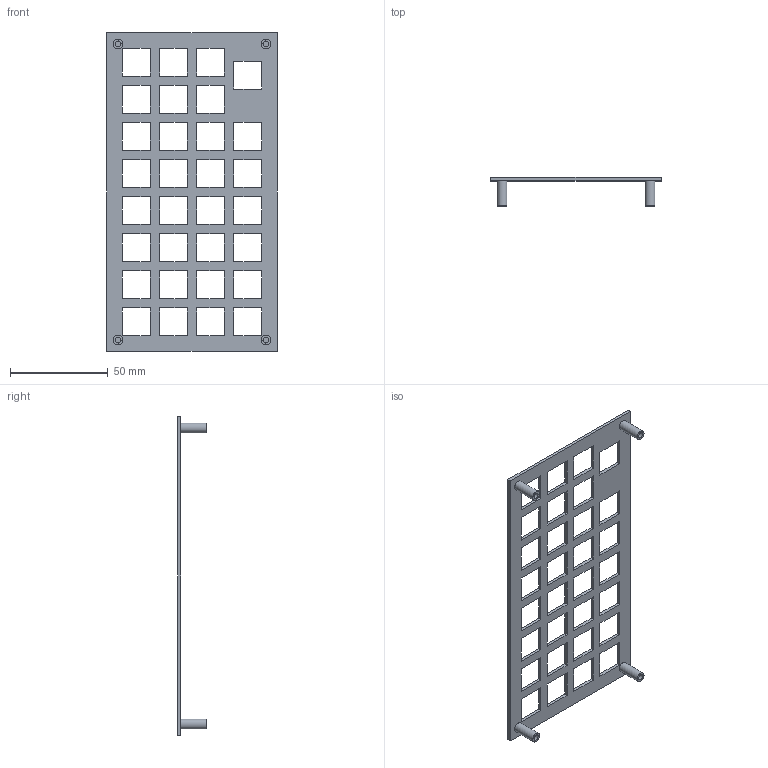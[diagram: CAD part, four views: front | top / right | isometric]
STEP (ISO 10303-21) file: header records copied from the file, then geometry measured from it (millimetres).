
FILE_DESCRIPTION(/* description */ (''),/* implementation_level */ '2;1');
FILE_NAME(/* name */ 'C:\Users\qpfin\Desktop\Top.stp',/* time_stamp */ '2021-04-03T00:33:38-05:00',/* author */ ('qpfin'),/* organization */ (''),/* preprocessor_version */ 'ST-DEVELOPER v18.1',/* originating_system */ 'Autodesk Inventor 2021',/* authorisation */ '');
FILE_SCHEMA (('AUTOMOTIVE_DESIGN { 1 0 10303 214 3 1 1 }'));
Length unit declared in the file: millimetre
Products named in the file (1): Top
Bounding box: 87.25 x 14.6 x 163.25 mm (x, y, z)
Volume: 13371.3 mm3; surface area: 20833 mm2
Topology: 1 solids, 1 shells, 146 faces, 416 edges, 280 vertices
Faces by surface type: plane 138, cylinder 8
Full cylindrical faces by diameter (mm): 3 x4, 5 x4
Entity records: 4853 total; most frequent: CARTESIAN_POINT 843, ORIENTED_EDGE 832, DIRECTION 734, EDGE_CURVE 416, LINE 392, VECTOR 392, VERTEX_POINT 280, EDGE_LOOP 216
